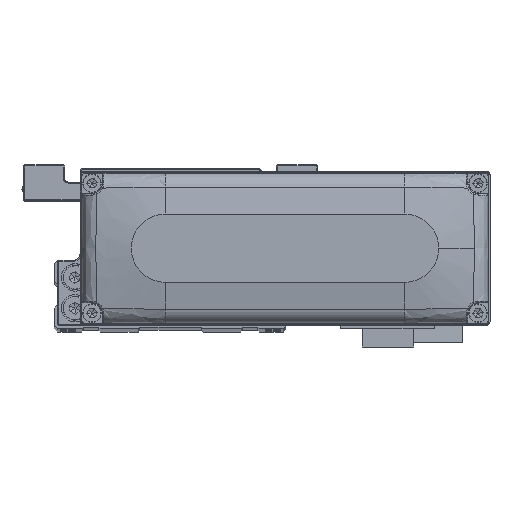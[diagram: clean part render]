
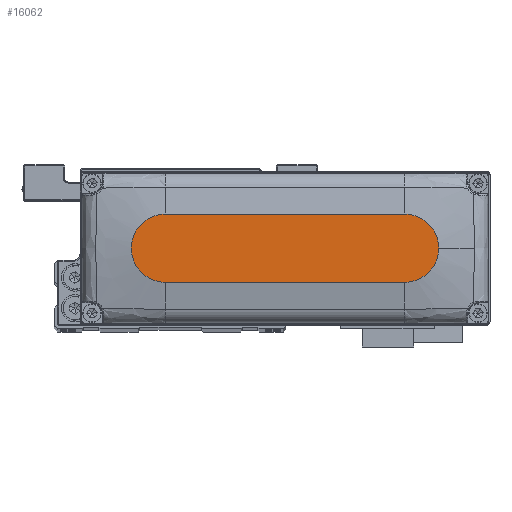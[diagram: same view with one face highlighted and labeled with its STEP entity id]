
A CAD part, top view. The second image highlights one B-rep face of the part: STEP entity #16062.
In plain terms, the highlighted planar face has unit normal (0, 0, 1).
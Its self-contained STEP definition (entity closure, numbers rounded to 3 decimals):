
#800 = EDGE_CURVE ( 'NONE', #17964, #23812, #18370, .T. ) ;
#1968 = ORIENTED_EDGE ( 'NONE', *, *, #33620, .T. ) ;
#3624 = DIRECTION ( 'NONE',  ( -1., 0., 0. ) ) ;
#3842 = DIRECTION ( 'NONE',  ( 1., 0., 0. ) ) ;
#5614 = CARTESIAN_POINT ( 'NONE',  ( -35., 0., 28. ) ) ;
#5742 = LINE ( 'NONE', #17930, #37105 ) ;
#5898 = EDGE_CURVE ( 'NONE', #36453, #14134, #11176, .T. ) ;
#6552 = DIRECTION ( 'NONE',  ( 1., 0., 0. ) ) ;
#6835 = PLANE ( 'NONE',  #8487 ) ;
#7055 = CIRCLE ( 'NONE', #29370, 10. ) ;
#8487 = AXIS2_PLACEMENT_3D ( 'NONE', #19028, #31189, #3842 ) ;
#8492 = CARTESIAN_POINT ( 'NONE',  ( 45., 0., 28. ) ) ;
#11176 = CIRCLE ( 'NONE', #38574, 10. ) ;
#11414 = CARTESIAN_POINT ( 'NONE',  ( 35., 0., 28. ) ) ;
#12570 = EDGE_CURVE ( 'NONE', #20117, #17964, #18809, .T. ) ;
#14134 = VERTEX_POINT ( 'NONE', #8492 ) ;
#16062 = ADVANCED_FACE ( 'NONE', ( #34185 ), #6835, .T. ) ;
#17800 = DIRECTION ( 'NONE',  ( 0., 0., 1. ) ) ;
#17930 = CARTESIAN_POINT ( 'NONE',  ( -35., -10., 28. ) ) ;
#17942 = ORIENTED_EDGE ( 'NONE', *, *, #800, .T. ) ;
#17964 = VERTEX_POINT ( 'NONE', #23282 ) ;
#18370 = CIRCLE ( 'NONE', #18420, 10. ) ;
#18420 = AXIS2_PLACEMENT_3D ( 'NONE', #5614, #17800, #29969 ) ;
#18809 = LINE ( 'NONE', #30966, #35134 ) ;
#19028 = CARTESIAN_POINT ( 'NONE',  ( 0., 0., 28. ) ) ;
#20117 = VERTEX_POINT ( 'NONE', #38534 ) ;
#21613 = ORIENTED_EDGE ( 'NONE', *, *, #5898, .T. ) ;
#21743 = CARTESIAN_POINT ( 'NONE',  ( 35., 0., 28. ) ) ;
#23282 = CARTESIAN_POINT ( 'NONE',  ( -35., 10., 28. ) ) ;
#23601 = DIRECTION ( 'NONE',  ( 0., 0., 1. ) ) ;
#23812 = VERTEX_POINT ( 'NONE', #28079 ) ;
#23981 = ORIENTED_EDGE ( 'NONE', *, *, #12570, .T. ) ;
#28079 = CARTESIAN_POINT ( 'NONE',  ( -35., -10., 28. ) ) ;
#29370 = AXIS2_PLACEMENT_3D ( 'NONE', #11414, #23601, #35751 ) ;
#29969 = DIRECTION ( 'NONE',  ( 1., 0., 0. ) ) ;
#30096 = DIRECTION ( 'NONE',  ( 1., 0., 0. ) ) ;
#30966 = CARTESIAN_POINT ( 'NONE',  ( -35., 10., 28. ) ) ;
#31189 = DIRECTION ( 'NONE',  ( 0., 0., 1. ) ) ;
#33620 = EDGE_CURVE ( 'NONE', #14134, #20117, #7055, .T. ) ;
#33901 = DIRECTION ( 'NONE',  ( 0., 0., 1. ) ) ;
#34185 = FACE_OUTER_BOUND ( 'NONE', #35121, .T. ) ;
#35121 = EDGE_LOOP ( 'NONE', ( #23981, #17942, #37521, #21613, #1968 ) ) ;
#35134 = VECTOR ( 'NONE', #3624, 1000. ) ;
#35148 = EDGE_CURVE ( 'NONE', #23812, #36453, #5742, .T. ) ;
#35751 = DIRECTION ( 'NONE',  ( 1., 0., 0. ) ) ;
#36453 = VERTEX_POINT ( 'NONE', #37065 ) ;
#37065 = CARTESIAN_POINT ( 'NONE',  ( 35., -10., 28. ) ) ;
#37105 = VECTOR ( 'NONE', #30096, 1000. ) ;
#37521 = ORIENTED_EDGE ( 'NONE', *, *, #35148, .T. ) ;
#38534 = CARTESIAN_POINT ( 'NONE',  ( 35., 10., 28. ) ) ;
#38574 = AXIS2_PLACEMENT_3D ( 'NONE', #21743, #33901, #6552 ) ;
